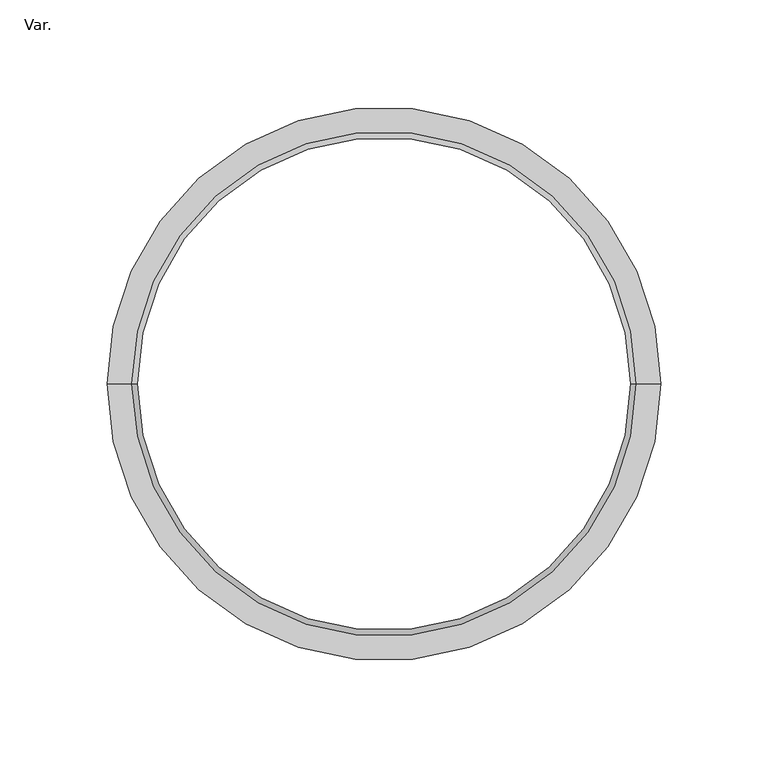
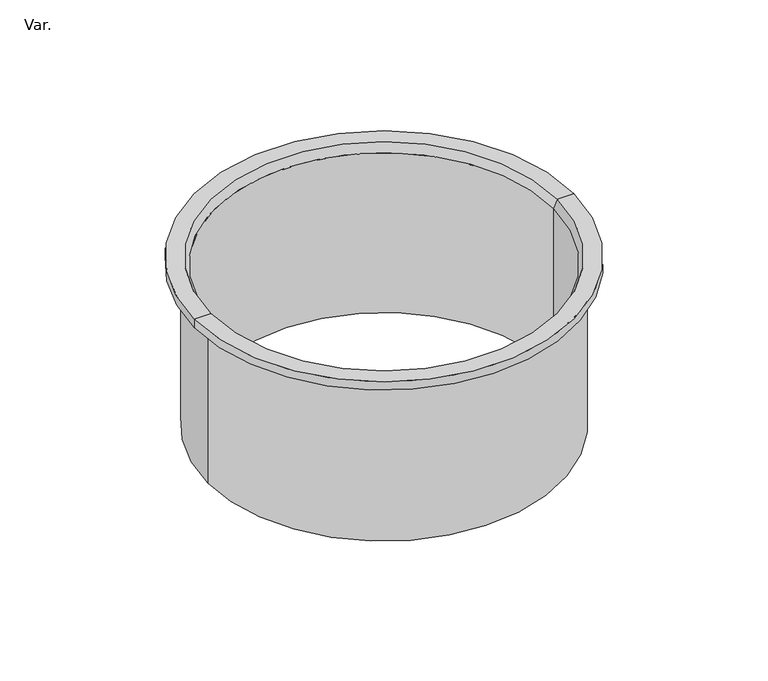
"""IFC4 building model written with IfcOpenShell, lengths in millimetres: pipe fitting geometry, PlastigamaWavin_Unionesdetubería_NovafortZNoUsarCaucho : Var.."""

from ifc_helpers import new_model, si_unit, frame, origin, place, context, project, spatial, polyline, circle_curve, source, transform, mapped, element, save
from ifc_brep_helpers import plane_surface, cylinder_surface, revolved_surface, advanced_brep


def var_48639e49(model_context):
    return source(origin(), model_context, "Body", "AdvancedBrep", [
        advanced_brep(
        [(115.0, 0.0, -110.0), (-115.0, 0.0, -110.0), (-120.0, 0.0, -110.0), (120.0, 0.0, -110.0), (115.0, 0.0, 5.0), (-115.0, 0.0, 5.0), (129.0, 0.0, 11.0), (-129.0, 0.0, 11.0), (-117.7012198, 0.0, 11.0), (117.7012198, 0.0, 11.0), (129.0, 0.0, 5.0), (-129.0, 0.0, 5.0), (120.0, 0.0, 5.0), (-120.0, 0.0, 5.0)],
        [
            (0, 1, circle_curve(frame((0.0, 0.0, -110.0), z_axis=(0.0, 0.0, 1.0), x_axis=(-1.0, 0.0, 0.0)), 115.0)),
            (1, 2),
            (2, 3, circle_curve(frame((0.0, 0.0, -110.0), z_axis=(0.0, 0.0, -1.0), x_axis=(-1.0, 0.0, 0.0)), 120.0)),
            (3, 0),
            (1, 0, circle_curve(frame((0.0, 0.0, -110.0), z_axis=(0.0, 0.0, 1.0), x_axis=(-1.0, 0.0, 0.0)), 115.0)),
            (3, 2, circle_curve(frame((0.0, 0.0, -110.0), z_axis=(0.0, 0.0, -1.0), x_axis=(-1.0, 0.0, 0.0)), 120.0)),
            (4, 5, circle_curve(frame((0.0, 0.0, 5.0), z_axis=(0.0, 0.0, 1.0), x_axis=(-1.0, 0.0, 0.0)), 115.0)),
            (5, 1),
            (0, 4),
            (5, 4, circle_curve(frame((0.0, 0.0, 5.0), z_axis=(0.0, 0.0, 1.0), x_axis=(-1.0, 0.0, 0.0)), 115.0)),
            (6, 7, circle_curve(frame((0.0, 0.0, 11.0), z_axis=(0.0, 0.0, 1.0), x_axis=(-1.0, 0.0, 0.0)), 129.0)),
            (7, 8),
            (8, 9, circle_curve(frame((0.0, 0.0, 11.0), z_axis=(0.0, 0.0, -1.0), x_axis=(-1.0, 0.0, 0.0)), 117.7012198)),
            (9, 6),
            (7, 6, circle_curve(frame((0.0, 0.0, 11.0), z_axis=(0.0, 0.0, 1.0), x_axis=(-1.0, 0.0, 0.0)), 129.0)),
            (9, 8, circle_curve(frame((0.0, 0.0, 11.0), z_axis=(0.0, 0.0, -1.0), x_axis=(-1.0, 0.0, 0.0)), 117.7012198)),
            (10, 11, circle_curve(frame((0.0, 0.0, 5.0), z_axis=(0.0, 0.0, 1.0), x_axis=(-1.0, 0.0, 0.0)), 129.0)),
            (11, 7),
            (6, 10),
            (11, 10, circle_curve(frame((0.0, 0.0, 5.0), z_axis=(0.0, 0.0, 1.0), x_axis=(-1.0, 0.0, 0.0)), 129.0)),
            (12, 13, circle_curve(frame((0.0, 0.0, 5.0), z_axis=(0.0, 0.0, 1.0), x_axis=(-1.0, 0.0, 0.0)), 120.0)),
            (13, 11),
            (10, 12),
            (13, 12, circle_curve(frame((0.0, 0.0, 5.0), z_axis=(0.0, 0.0, 1.0), x_axis=(-1.0, 0.0, 0.0)), 120.0)),
            (2, 13),
            (12, 3),
            (8, 5),
            (4, 9),
        ],
        [
            plane_surface(frame((0.0, 0.0, -110.0), z_axis=(0.0, 0.0, -1.0), x_axis=(-1.0, 0.0, 0.0))),
            revolved_surface(polyline([(-115.0, 0.0, -110.0), (-115.0, 0.0, 5.0)]), (0.0, 0.0, 2214.3150031), (0.0, 0.0, -1.0)),
            plane_surface(frame((0.0, 0.0, 11.0), z_axis=(0.0, 0.0, 1.0), x_axis=(-1.0, 0.0, 0.0))),
            cylinder_surface(frame((0.0, 0.0, 2214.3150031), z_axis=(0.0, 0.0, -1.0), x_axis=(-1.0, 0.0, 0.0)), 129.0),
            plane_surface(frame((0.0, 0.0, 5.0), z_axis=(0.0, 0.0, -1.0), x_axis=(-1.0, 0.0, 0.0))),
            cylinder_surface(frame((0.0, 0.0, 2214.3150031), z_axis=(0.0, 0.0, -1.0), x_axis=(-1.0, 0.0, 0.0)), 120.0),
            revolved_surface(polyline([(-115.0, 0.0, 5.0), (-117.7012198, 0.0, 11.0)]), (0.0, 0.0, 2214.3150031), (0.0, 0.0, -1.0)),
        ],
        [
            (0, [[1, 2, 3, 4]]),
            (0, [[5, -4, 6, -2]]),
            (1, [[7, 8, -1, 9]]),
            (1, [[10, -9, -5, -8]]),
            (2, [[11, 12, 13, 14]]),
            (2, [[15, -14, 16, -12]]),
            (3, [[17, 18, -11, 19]]),
            (3, [[20, -19, -15, -18]]),
            (4, [[21, 22, -17, 23]]),
            (4, [[24, -23, -20, -22]]),
            (5, [[-3, 25, -21, 26]]),
            (5, [[-6, -26, -24, -25]]),
            (6, [[-13, 27, -7, 28]]),
            (6, [[-16, -28, -10, -27]]),
        ],
    ),
    ])


if __name__ == "__main__":
    model = new_model("IFC4")
    model_context = context("Model", 3, world=origin())
    ifc_project = project(units=[si_unit("LENGTHUNIT", "METRE", prefix="MILLI")], contexts=[model_context])
    site = spatial("IfcSite", under=ifc_project)
    building = spatial("IfcBuilding", under=site)
    placement = place(None, origin())
    var_shape = var_48639e49(model_context)
    element("IfcPipeFitting", 1, ObjectType="PlastigamaWavin_Unionesdetubería_NovafortZNoUsarCaucho : Var.", at=placement, inside=building, context=model_context, shape_type="MappedRepresentation", body=[
        mapped(var_shape, transform((0.0, 0.0, 0.0), x_axis=(1.0, 0.0, 0.0), y_axis=(0.0, 1.0, 0.0), z_axis=(0.0, 0.0, 1.0))),
    ])
    save(model, "model.ifc")
